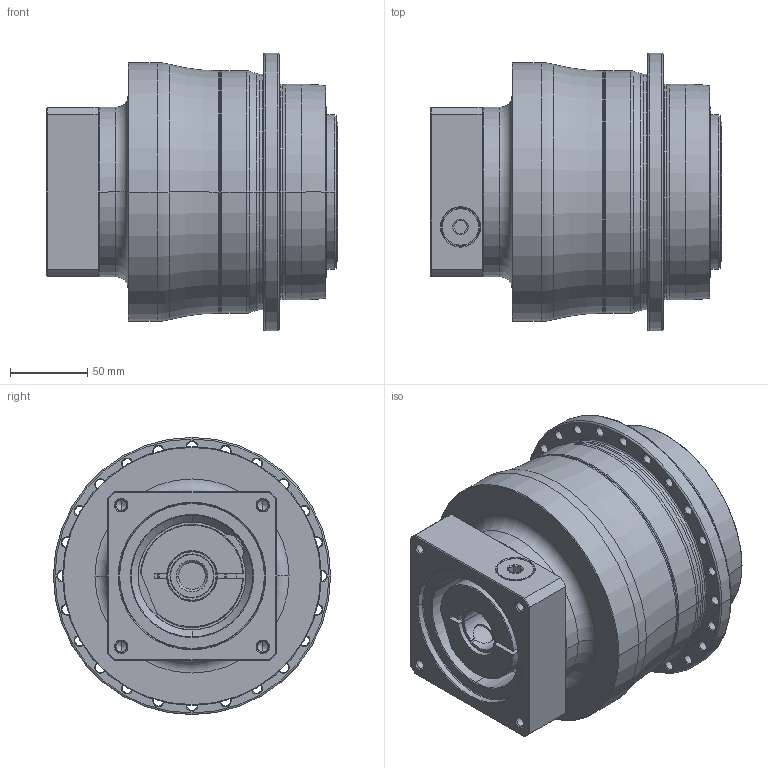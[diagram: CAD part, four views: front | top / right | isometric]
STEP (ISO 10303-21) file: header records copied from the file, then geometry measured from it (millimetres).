
FILE_DESCRIPTION((''),'2;1');
FILE_NAME('AP140_2ST_28-P0409610201_ASM','2018-05-29T',('d01226'),(''),'PRO/ENGINEER BY PARAMETRIC TECHNOLOGY CORPORATION, 2008410','PRO/ENGINEER BY PARAMETRIC TECHNOLOGY CORPORATION, 2008410','');
FILE_SCHEMA(('CONFIG_CONTROL_DESIGN'));
Length unit declared in the file: millimetre
Products named in the file (9): P0278501003; P0359501103; P1317510201; P0503600010; P0912452001; P1211500001; P0409610201; 21711418017; AP140_2ST_28-P0409610201_ASM
Assembly tree (8 placements, depth 2):
  AP140_2ST_28-P0409610201_ASM
    P0278501003
    P0359501103
    P1317510201
    P0503600010
    P0912452001
    P1211500001
    P0409610201
    21711418017
Bounding box: 189 x 180 x 180 mm (x, y, z)
Volume: 2717878.7 mm3; surface area: 314549.6 mm2
Topology: 9 solids, 34 shells, 641 faces, 1493 edges, 922 vertices
Faces by surface type: cylinder 271, cone 177, plane 108, torus 71, bspline 14
Entity records: 23511 total; most frequent: CARTESIAN_POINT 8057, DIRECTION 3555, ORIENTED_EDGE 2868, AXIS2_PLACEMENT_3D 1521, EDGE_CURVE 1485, VERTEX_POINT 922, CIRCLE 867, EDGE_LOOP 797
